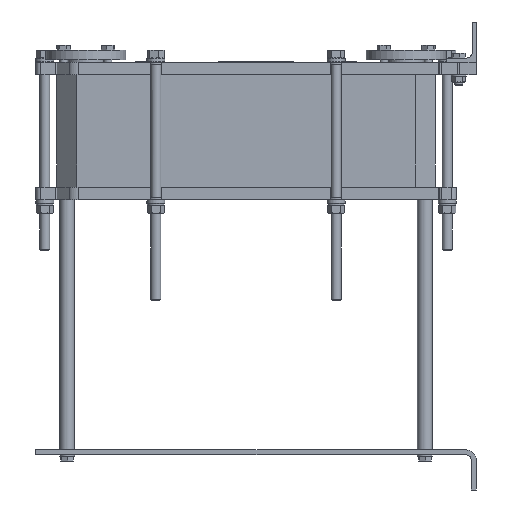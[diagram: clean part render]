
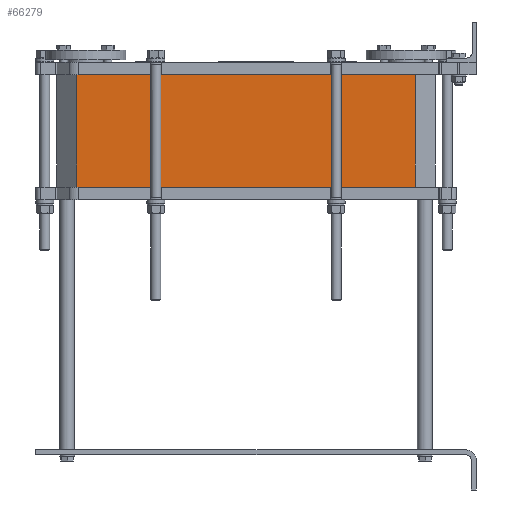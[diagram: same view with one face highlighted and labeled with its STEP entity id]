
A CAD part, left-side view. The second image highlights one B-rep face of the part: STEP entity #66279.
In plain terms, the highlighted planar face has unit normal (-1, 0, 0).
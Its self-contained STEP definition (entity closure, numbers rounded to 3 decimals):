
#573 = AXIS2_PLACEMENT_3D ( 'NONE', #43716, #66989, #29832 ) ;
#4839 = EDGE_LOOP ( 'NONE', ( #87235, #33846, #75976, #55314 ) ) ;
#6130 = PLANE ( 'NONE',  #573 ) ;
#6229 = VECTOR ( 'NONE', #77414, 1000. ) ;
#7151 = VECTOR ( 'NONE', #67134, 1000. ) ;
#7366 = CARTESIAN_POINT ( 'NONE',  ( 29.6, 122.041, -329.9 ) ) ;
#9079 = EDGE_CURVE ( 'NONE', #75884, #58923, #51953, .T. ) ;
#14458 = CARTESIAN_POINT ( 'NONE',  ( 29.6, 817., -104.9 ) ) ;
#14924 = VERTEX_POINT ( 'NONE', #59133 ) ;
#15121 = LINE ( 'NONE', #26141, #83409 ) ;
#15651 = EDGE_CURVE ( 'NONE', #58923, #85718, #15121, .T. ) ;
#17719 = FACE_OUTER_BOUND ( 'NONE', #4839, .T. ) ;
#26141 = CARTESIAN_POINT ( 'NONE',  ( 29.6, 122.041, -104.9 ) ) ;
#29832 = DIRECTION ( 'NONE',  ( 0., 1., 0. ) ) ;
#31210 = LINE ( 'NONE', #56694, #89995 ) ;
#33729 = DIRECTION ( 'NONE',  ( 0., 0., -1. ) ) ;
#33846 = ORIENTED_EDGE ( 'NONE', *, *, #57426, .T. ) ;
#37171 = CARTESIAN_POINT ( 'NONE',  ( 29.6, 122.041, -104.9 ) ) ;
#38958 = CARTESIAN_POINT ( 'NONE',  ( 29.6, 797.959, -104.9 ) ) ;
#43716 = CARTESIAN_POINT ( 'NONE',  ( 29.6, 122.041, -104.9 ) ) ;
#49786 = EDGE_CURVE ( 'NONE', #85718, #14924, #31210, .T. ) ;
#51953 = LINE ( 'NONE', #14458, #7151 ) ;
#52331 = CARTESIAN_POINT ( 'NONE',  ( 29.6, 797.959, -104.9 ) ) ;
#55314 = ORIENTED_EDGE ( 'NONE', *, *, #15651, .F. ) ;
#56694 = CARTESIAN_POINT ( 'NONE',  ( 29.6, 817., -329.9 ) ) ;
#57426 = EDGE_CURVE ( 'NONE', #75884, #14924, #87443, .T. ) ;
#58923 = VERTEX_POINT ( 'NONE', #37171 ) ;
#59133 = CARTESIAN_POINT ( 'NONE',  ( 29.6, 797.959, -329.9 ) ) ;
#66279 = ADVANCED_FACE ( 'NONE', ( #17719 ), #6130, .T. ) ;
#66989 = DIRECTION ( 'NONE',  ( -1., 0., 0. ) ) ;
#67134 = DIRECTION ( 'NONE',  ( 0., -1., 0. ) ) ;
#75884 = VERTEX_POINT ( 'NONE', #52331 ) ;
#75976 = ORIENTED_EDGE ( 'NONE', *, *, #49786, .F. ) ;
#77414 = DIRECTION ( 'NONE',  ( 0., 0., -1. ) ) ;
#79648 = DIRECTION ( 'NONE',  ( 0., 1., 0. ) ) ;
#83409 = VECTOR ( 'NONE', #33729, 1000. ) ;
#85718 = VERTEX_POINT ( 'NONE', #7366 ) ;
#87235 = ORIENTED_EDGE ( 'NONE', *, *, #9079, .F. ) ;
#87443 = LINE ( 'NONE', #38958, #6229 ) ;
#89995 = VECTOR ( 'NONE', #79648, 1000. ) ;
